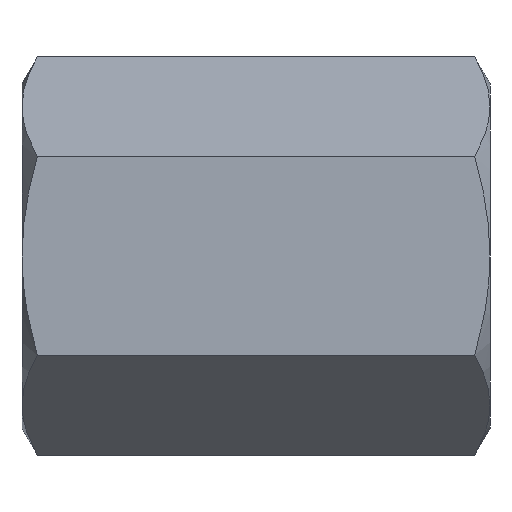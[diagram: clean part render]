
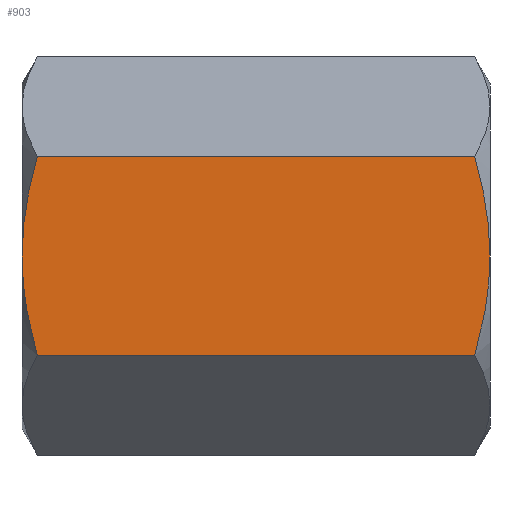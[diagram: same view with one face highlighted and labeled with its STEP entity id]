
A CAD part, left-side view. The second image highlights one B-rep face of the part: STEP entity #903.
In plain terms, the highlighted planar face has unit normal (-1, 0, 0).
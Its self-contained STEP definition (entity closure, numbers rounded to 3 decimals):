
#6 = CARTESIAN_POINT ( 'NONE',  ( -7., 8.875, -4.041 ) ) ;
#13 = EDGE_CURVE ( 'NONE', #850, #618, #943, .T. ) ;
#40 = B_SPLINE_CURVE_WITH_KNOTS ( 'NONE', 3,
 ( #881, #493, #389, #296, #196, #81 ),
 .UNSPECIFIED., .F., .F.,
 ( 4, 2, 4 ),
 ( 0.012, 0.014, 0.016 ),
 .UNSPECIFIED. ) ;
#47 = CARTESIAN_POINT ( 'NONE',  ( -7., -8.875, -4.041 ) ) ;
#51 = EDGE_CURVE ( 'NONE', #816, #790, #648, .T. ) ;
#59 = CARTESIAN_POINT ( 'NONE',  ( -7., 9.5, 0. ) ) ;
#63 = CARTESIAN_POINT ( 'NONE',  ( -7., 9.5, 4.041 ) ) ;
#81 = CARTESIAN_POINT ( 'NONE',  ( -7., -8.875, 4.041 ) ) ;
#89 = EDGE_CURVE ( 'NONE', #850, #297, #757, .T. ) ;
#138 = CARTESIAN_POINT ( 'NONE',  ( -7., 9.441, -1.362 ) ) ;
#168 = ORIENTED_EDGE ( 'NONE', *, *, #327, .T. ) ;
#175 = CARTESIAN_POINT ( 'NONE',  ( -7., -8.875, 4.041 ) ) ;
#196 = CARTESIAN_POINT ( 'NONE',  ( -7., -9.063, 3.388 ) ) ;
#199 = EDGE_CURVE ( 'NONE', #618, #816, #925, .T. ) ;
#296 = CARTESIAN_POINT ( 'NONE',  ( -7., -9.221, 2.726 ) ) ;
#297 = VERTEX_POINT ( 'NONE', #868 ) ;
#327 = EDGE_CURVE ( 'NONE', #297, #562, #930, .T. ) ;
#352 = DIRECTION ( 'NONE',  ( 0., -1., 0. ) ) ;
#353 = ORIENTED_EDGE ( 'NONE', *, *, #89, .T. ) ;
#389 = CARTESIAN_POINT ( 'NONE',  ( -7., -9.439, 1.377 ) ) ;
#419 = ORIENTED_EDGE ( 'NONE', *, *, #13, .F. ) ;
#442 = CARTESIAN_POINT ( 'NONE',  ( -7., 8.875, 4.041 ) ) ;
#451 = DIRECTION ( 'NONE',  ( 0., 0., -1. ) ) ;
#493 = CARTESIAN_POINT ( 'NONE',  ( -7., -9.5, 0.684 ) ) ;
#495 = CARTESIAN_POINT ( 'NONE',  ( -7., 9.065, -3.383 ) ) ;
#528 = CARTESIAN_POINT ( 'NONE',  ( -7., -9.5, 0. ) ) ;
#546 = CARTESIAN_POINT ( 'NONE',  ( -7., 9.063, 3.388 ) ) ;
#552 = DIRECTION ( 'NONE',  ( 1., 0., 0. ) ) ;
#562 = VERTEX_POINT ( 'NONE', #781 ) ;
#563 = DIRECTION ( 'NONE',  ( 0., -1., 0. ) ) ;
#591 = EDGE_LOOP ( 'NONE', ( #353, #168, #705, #835, #958, #419 ) ) ;
#592 = CARTESIAN_POINT ( 'NONE',  ( -7., 8.875, -4.041 ) ) ;
#598 = AXIS2_PLACEMENT_3D ( 'NONE', #651, #552, #451 ) ;
#618 = VERTEX_POINT ( 'NONE', #826 ) ;
#625 = CARTESIAN_POINT ( 'NONE',  ( -7., -9.5, -0.684 ) ) ;
#632 = VECTOR ( 'NONE', #352, 1000. ) ;
#643 = CARTESIAN_POINT ( 'NONE',  ( -7., 9.221, 2.726 ) ) ;
#648 = LINE ( 'NONE', #63, #632 ) ;
#651 = CARTESIAN_POINT ( 'NONE',  ( -7., 9.5, -4.041 ) ) ;
#660 = CARTESIAN_POINT ( 'NONE',  ( -7., 9.5, -4.041 ) ) ;
#686 = CARTESIAN_POINT ( 'NONE',  ( -7., 9.5, -0.684 ) ) ;
#692 = EDGE_CURVE ( 'NONE', #562, #790, #40, .T. ) ;
#702 = FACE_OUTER_BOUND ( 'NONE', #591, .T. ) ;
#705 = ORIENTED_EDGE ( 'NONE', *, *, #692, .T. ) ;
#725 = CARTESIAN_POINT ( 'NONE',  ( -7., -9.441, -1.362 ) ) ;
#742 = CARTESIAN_POINT ( 'NONE',  ( -7., 9.439, 1.377 ) ) ;
#749 = PLANE ( 'NONE',  #598 ) ;
#757 = LINE ( 'NONE', #660, #877 ) ;
#781 = CARTESIAN_POINT ( 'NONE',  ( -7., -9.5, 0. ) ) ;
#789 = CARTESIAN_POINT ( 'NONE',  ( -7., 9.5, 0. ) ) ;
#790 = VERTEX_POINT ( 'NONE', #175 ) ;
#808 = CARTESIAN_POINT ( 'NONE',  ( -7., 9.224, -2.711 ) ) ;
#816 = VERTEX_POINT ( 'NONE', #915 ) ;
#822 = CARTESIAN_POINT ( 'NONE',  ( -7., -9.224, -2.711 ) ) ;
#826 = CARTESIAN_POINT ( 'NONE',  ( -7., 9.5, 0. ) ) ;
#835 = ORIENTED_EDGE ( 'NONE', *, *, #51, .F. ) ;
#836 = CARTESIAN_POINT ( 'NONE',  ( -7., 9.5, 0.684 ) ) ;
#850 = VERTEX_POINT ( 'NONE', #592 ) ;
#868 = CARTESIAN_POINT ( 'NONE',  ( -7., -8.875, -4.041 ) ) ;
#877 = VECTOR ( 'NONE', #563, 1000. ) ;
#881 = CARTESIAN_POINT ( 'NONE',  ( -7., -9.5, 0. ) ) ;
#903 = ADVANCED_FACE ( 'NONE', ( #702 ), #749, .F. ) ;
#915 = CARTESIAN_POINT ( 'NONE',  ( -7., 8.875, 4.041 ) ) ;
#920 = CARTESIAN_POINT ( 'NONE',  ( -7., -9.065, -3.383 ) ) ;
#925 = B_SPLINE_CURVE_WITH_KNOTS ( 'NONE', 3,
 ( #59, #836, #742, #643, #546, #442 ),
 .UNSPECIFIED., .F., .F.,
 ( 4, 2, 4 ),
 ( 0.012, 0.014, 0.016 ),
 .UNSPECIFIED. ) ;
#930 = B_SPLINE_CURVE_WITH_KNOTS ( 'NONE', 3,
 ( #47, #920, #822, #725, #625, #528 ),
 .UNSPECIFIED., .F., .F.,
 ( 4, 2, 4 ),
 ( 0.008, 0.01, 0.012 ),
 .UNSPECIFIED. ) ;
#943 = B_SPLINE_CURVE_WITH_KNOTS ( 'NONE', 3,
 ( #6, #495, #808, #138, #686, #789 ),
 .UNSPECIFIED., .F., .F.,
 ( 4, 2, 4 ),
 ( 0.008, 0.01, 0.012 ),
 .UNSPECIFIED. ) ;
#958 = ORIENTED_EDGE ( 'NONE', *, *, #199, .F. ) ;
